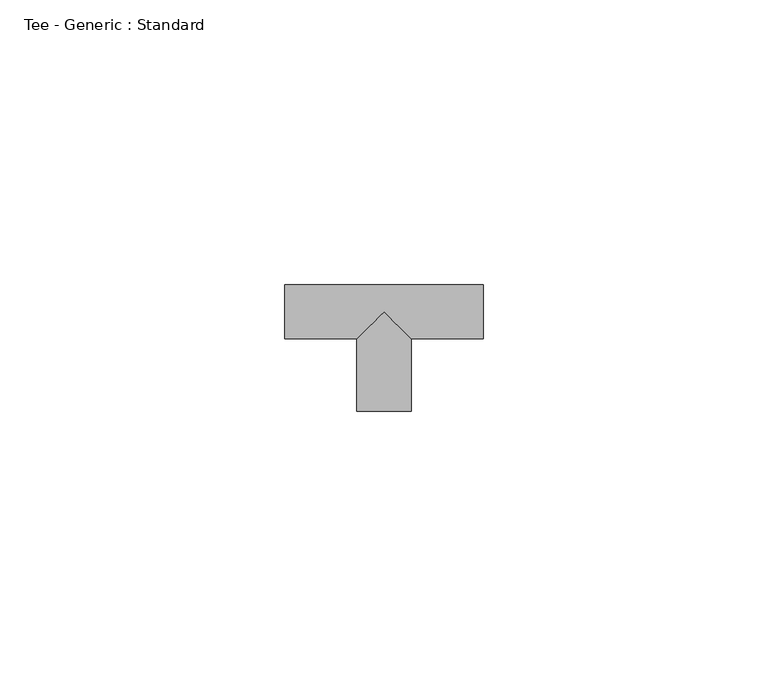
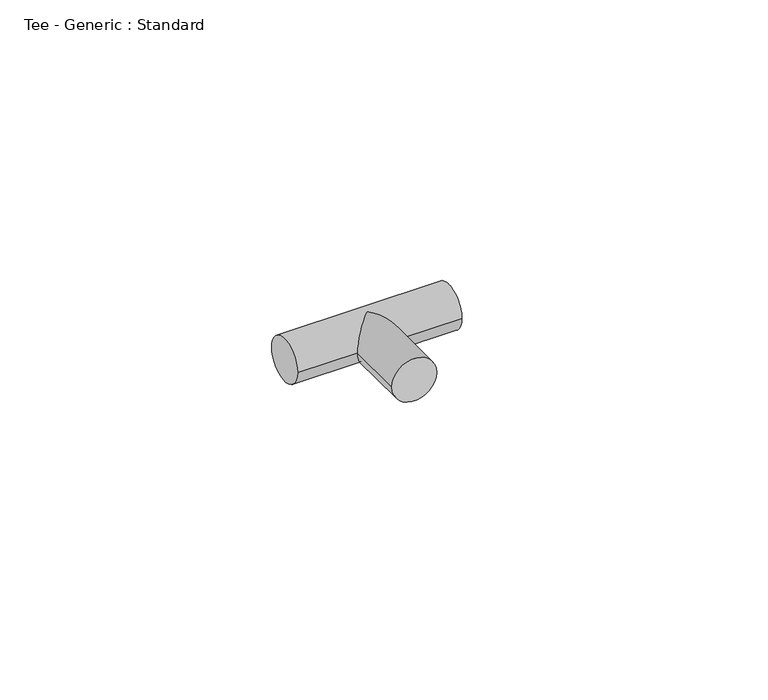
"""IFC4 building model written with IfcOpenShell, lengths in millimetres: pipe fitting geometry, Tee - Generic : Standard."""

from ifc_helpers import new_model, si_unit, frame, origin, place, context, project, spatial, circle_curve, ellipse_curve, source, transform, mapped, element, save
from ifc_brep_helpers import plane_surface, cylinder_surface, advanced_brep


def tee_generic_standard_7a603254(model_context):
    return source(origin(), model_context, "Body", "AdvancedBrep", [
        advanced_brep(
        [(-17.4625, -4.7625, 0.0), (-17.4625, 4.7625, 0.0), (17.4625, -4.7625, 0.0), (17.4625, 4.7625, 0.0), (-4.7625, -4.7625, 0.0), (0.0, 0.0, 4.7625), (4.7625, -4.7625, 0.0), (0.0, 0.0, -4.7625), (-4.7625, -17.4625, 0.0), (4.7625, -17.4625, 0.0)],
        [
            (0, 1, circle_curve(frame((-17.4625, 0.0, 0.0), z_axis=(-1.0, 0.0, 0.0), x_axis=(0.0, 1.0, 0.0)), 4.7625)),
            (1, 0, circle_curve(frame((-17.4625, 0.0, 0.0), z_axis=(-1.0, 0.0, 0.0), x_axis=(0.0, 1.0, 0.0)), 4.7625)),
            (2, 3, circle_curve(frame((17.4625, 0.0, 0.0), z_axis=(1.0, 0.0, 0.0), x_axis=(0.0, 1.0, 0.0)), 4.7625)),
            (3, 2, circle_curve(frame((17.4625, 0.0, 0.0), z_axis=(1.0, 0.0, 0.0), x_axis=(0.0, 1.0, 0.0)), 4.7625)),
            (0, 4),
            (4, 5, ellipse_curve(frame((0.0, 0.0, 0.0), z_axis=(-0.707106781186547, 0.7071067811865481, 0.0), x_axis=(-0.707106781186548, -0.707106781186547, 0.0)), 6.7351921, 4.7625)),
            (5, 6, ellipse_curve(frame((0.0, 0.0, 0.0), z_axis=(0.707106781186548, 0.7071067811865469, 0.0), x_axis=(-0.707106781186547, 0.707106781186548, 0.0)), 6.7351921, 4.7625)),
            (6, 2),
            (3, 1),
            (6, 7, ellipse_curve(frame((0.0, 0.0, 0.0), z_axis=(0.707106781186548, 0.7071067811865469, 0.0), x_axis=(-0.707106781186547, 0.707106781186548, 0.0)), 6.7351921, 4.7625)),
            (7, 4, ellipse_curve(frame((0.0, 0.0, 0.0), z_axis=(-0.707106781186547, 0.7071067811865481, 0.0), x_axis=(-0.707106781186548, -0.707106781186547, 0.0)), 6.7351921, 4.7625)),
            (8, 9, circle_curve(frame((0.0, -17.4625, 0.0), z_axis=(0.0, -1.0, 0.0), x_axis=(1.0, 0.0, 0.0)), 4.7625)),
            (9, 8, circle_curve(frame((0.0, -17.4625, 0.0), z_axis=(0.0, -1.0, 0.0), x_axis=(1.0, 0.0, 0.0)), 4.7625)),
            (9, 6),
            (4, 8),
        ],
        [
            plane_surface(frame((-17.4625, 0.0, 0.0), z_axis=(-1.0, 0.0, 0.0), x_axis=(0.0, 0.0, 1.0))),
            plane_surface(frame((17.4625, 0.0, 0.0), z_axis=(1.0, 0.0, 0.0), x_axis=(0.0, 0.0, 1.0))),
            cylinder_surface(frame((-17.4625, 0.0, 0.0), z_axis=(-1.0, 0.0, 0.0), x_axis=(0.0, 1.0, 0.0)), 4.7625),
            plane_surface(frame((0.0, -17.4625, 0.0), z_axis=(0.0, -1.0, 0.0), x_axis=(0.0, 0.0, 1.0))),
            cylinder_surface(frame((0.0, 0.0, 0.0), z_axis=(0.0, 1.0, 0.0), x_axis=(1.0, 0.0, 0.0)), 4.7625),
        ],
        [
            (0, [[1, 2]]),
            (1, [[3, 4]]),
            (2, [[-1, 5, 6, 7, 8, -4, 9]]),
            (2, [[-2, -9, -3, -8, 10, 11, -5]]),
            (3, [[12, 13]]),
            (4, [[-13, 14, -7, -6, 15]]),
            (4, [[-12, -15, -11, -10, -14]]),
        ],
    ),
    ])


if __name__ == "__main__":
    model = new_model("IFC4")
    model_context = context("Model", 3, world=origin())
    ifc_project = project(units=[si_unit("LENGTHUNIT", "METRE", prefix="MILLI")], contexts=[model_context])
    site = spatial("IfcSite", under=ifc_project)
    building = spatial("IfcBuilding", under=site)
    placement = place(None, origin())
    tee_generic_standard_shape = tee_generic_standard_7a603254(model_context)
    element("IfcPipeFitting", 1, ObjectType="Tee - Generic : Standard", at=placement, inside=building, context=model_context, shape_type="MappedRepresentation", body=[
        mapped(tee_generic_standard_shape, transform((0.0, 0.0, 0.0), x_axis=(1.0, 0.0, 0.0), y_axis=(0.0, 1.0, 0.0), z_axis=(0.0, 0.0, 1.0))),
    ])
    save(model, "model.ifc")
